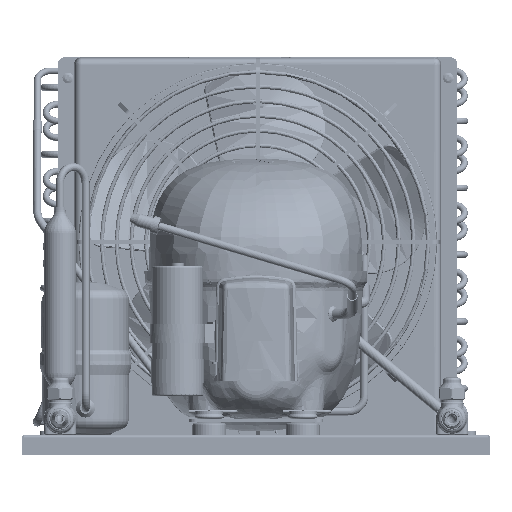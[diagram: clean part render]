
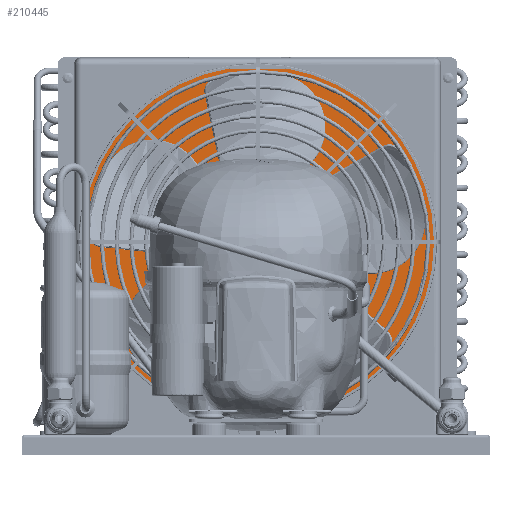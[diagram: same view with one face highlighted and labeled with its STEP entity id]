
A CAD part, front view. The second image highlights one B-rep face of the part: STEP entity #210445.
In plain terms, the highlighted planar face has unit normal (0, -1, 0) as drawn and (-1, 0, 0) by its records, which use the part's own axes.
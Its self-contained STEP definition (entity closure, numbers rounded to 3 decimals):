
#19096=LINE('',#361869,#33372);
#19097=LINE('',#361872,#33373);
#19098=LINE('',#361874,#33374);
#19099=LINE('',#361876,#33375);
#33372=VECTOR('',#311594,1000.);
#33373=VECTOR('',#311595,1000.);
#33374=VECTOR('',#311596,1000.);
#33375=VECTOR('',#311597,1000.);
#48766=ORIENTED_EDGE('',*,*,#112890,.T.);
#48767=ORIENTED_EDGE('',*,*,#112891,.F.);
#48768=ORIENTED_EDGE('',*,*,#112892,.F.);
#48769=ORIENTED_EDGE('',*,*,#112893,.T.);
#112890=EDGE_CURVE('',#145180,#145181,#19096,.T.);
#112891=EDGE_CURVE('',#145182,#145181,#19097,.T.);
#112892=EDGE_CURVE('',#145183,#145182,#19098,.T.);
#112893=EDGE_CURVE('',#145183,#145180,#19099,.T.);
#145180=VERTEX_POINT('',#361870);
#145181=VERTEX_POINT('',#361871);
#145182=VERTEX_POINT('',#361873);
#145183=VERTEX_POINT('',#361875);
#173811=EDGE_LOOP('',(#48766,#48767,#48768,#48769));
#189439=FACE_BOUND('',#173811,.T.);
#204226=PLANE('',#292300);
#210445=ADVANCED_FACE('',(#189439),#204226,.F.);
#292300=AXIS2_PLACEMENT_3D('',#361868,#311592,#311593);
#311592=DIRECTION('',(1.,0.,0.));
#311593=DIRECTION('',(0.,0.,-1.));
#311594=DIRECTION('',(0.,0.,-1.));
#311595=DIRECTION('',(0.,1.,0.));
#311596=DIRECTION('',(0.,0.,-1.));
#311597=DIRECTION('',(0.,1.,0.));
#361868=CARTESIAN_POINT('',(-18.75,-135.,137.5));
#361869=CARTESIAN_POINT('',(-18.75,135.,137.5));
#361870=CARTESIAN_POINT('',(-18.75,135.,137.5));
#361871=CARTESIAN_POINT('',(-18.75,135.,-137.5));
#361872=CARTESIAN_POINT('',(-18.75,-135.,-137.5));
#361873=CARTESIAN_POINT('',(-18.75,-135.,-137.5));
#361874=CARTESIAN_POINT('',(-18.75,-135.,137.5));
#361875=CARTESIAN_POINT('',(-18.75,-135.,137.5));
#361876=CARTESIAN_POINT('',(-18.75,-135.,137.5));
